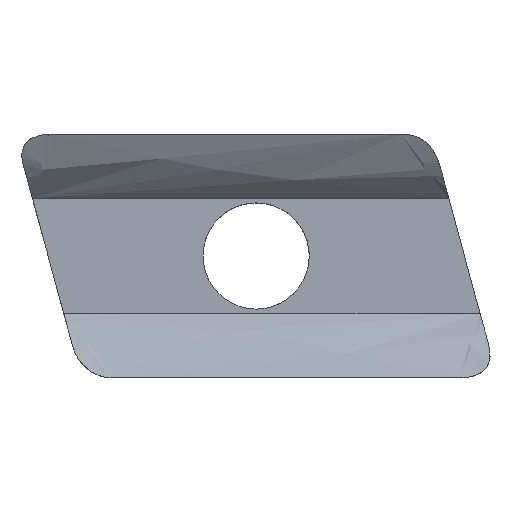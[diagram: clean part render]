
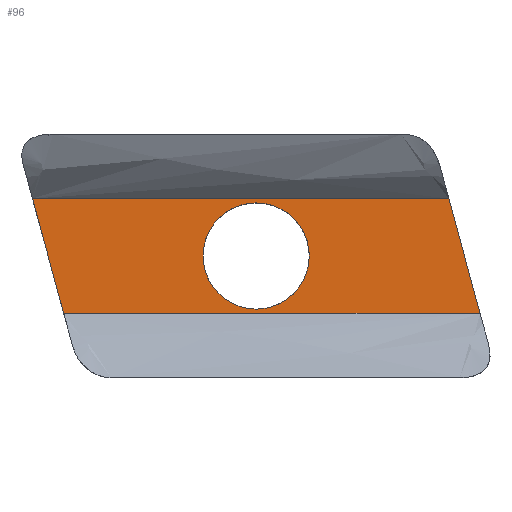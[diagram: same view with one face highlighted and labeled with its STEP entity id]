
A CAD part, top view. The second image highlights one B-rep face of the part: STEP entity #96.
In plain terms, the highlighted planar face has unit normal (0, 0, 1).
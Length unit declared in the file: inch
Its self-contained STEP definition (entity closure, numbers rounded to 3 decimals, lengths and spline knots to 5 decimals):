
#96=ADVANCED_FACE('',(#189,#190),#191,.T.);
#189=FACE_BOUND('',#1805,.T.);
#190=FACE_OUTER_BOUND('',#1806,.T.);
#191=PLANE('',#1807);
#1805=EDGE_LOOP('',(#2002,#2003,#2004,#2005));
#1806=EDGE_LOOP('',(#2006,#2007,#2008,#2009,#2010));
#1807=AXIS2_PLACEMENT_3D('',#2011,#2012,#2013);
#2002=ORIENTED_EDGE('',*,*,#2145,.T.);
#2003=ORIENTED_EDGE('',*,*,#2102,.T.);
#2004=ORIENTED_EDGE('',*,*,#2113,.T.);
#2005=ORIENTED_EDGE('',*,*,#2107,.T.);
#2006=ORIENTED_EDGE('',*,*,#2122,.F.);
#2007=ORIENTED_EDGE('',*,*,#2076,.T.);
#2008=ORIENTED_EDGE('',*,*,#2146,.F.);
#2009=ORIENTED_EDGE('',*,*,#2088,.T.);
#2010=ORIENTED_EDGE('',*,*,#2063,.T.);
#2011=CARTESIAN_POINT('',(-0.14909,0.203,0.0666));
#2012=DIRECTION('',(0.0,0.0,1.0));
#2013=DIRECTION('',(0.0,-1.0,0.0));
#2063=EDGE_CURVE('',#2175,#2173,#2176,.T.);
#2076=EDGE_CURVE('',#2191,#2198,#2200,.T.);
#2088=EDGE_CURVE('',#2212,#2175,#2221,.T.);
#2102=EDGE_CURVE('',#2241,#2242,#2243,.T.);
#2107=EDGE_CURVE('',#2250,#2251,#2252,.T.);
#2113=EDGE_CURVE('',#2242,#2250,#2260,.T.);
#2122=EDGE_CURVE('',#2191,#2173,#2270,.T.);
#2145=EDGE_CURVE('',#2251,#2241,#2297,.T.);
#2146=EDGE_CURVE('',#2212,#2198,#2298,.T.);
#2173=VERTEX_POINT('',#2608);
#2175=VERTEX_POINT('',#2615);
#2176=LINE('',#2616,#2617);
#2191=VERTEX_POINT('',#2671);
#2198=VERTEX_POINT('',#2689);
#2200=LINE('',#2696,#2697);
#2212=VERTEX_POINT('',#2731);
#2221=LINE('',#2757,#2758);
#2241=VERTEX_POINT('',#2801);
#2242=VERTEX_POINT('',#2802);
#2243=B_SPLINE_CURVE_WITH_KNOTS('',3,(#2803,#2804,#2805,#2806),.UNSPECIFIED.,.F.,.F.,(4,4),(-1.0,-0.0),.UNSPECIFIED.);
#2250=VERTEX_POINT('',#2826);
#2251=VERTEX_POINT('',#2827);
#2252=B_SPLINE_CURVE_WITH_KNOTS('',3,(#2828,#2829,#2830,#2831),.UNSPECIFIED.,.F.,.F.,(4,4),(-1.0,-0.0),.UNSPECIFIED.);
#2260=B_SPLINE_CURVE_WITH_KNOTS('',3,(#2852,#2853,#2854,#2855),.UNSPECIFIED.,.F.,.F.,(4,4),(-1.0,-0.0),.UNSPECIFIED.);
#2270=LINE('',#2890,#2891);
#2297=B_SPLINE_CURVE_WITH_KNOTS('',3,(#2989,#2990,#2991,#2992),.UNSPECIFIED.,.F.,.F.,(4,4),(-1.0,-0.0),.UNSPECIFIED.);
#2298=LINE('',#2993,#2994);
#2608=CARTESIAN_POINT('',(0.61456,0.10727,0.0666));
#2615=CARTESIAN_POINT('',(-0.07948,0.10727,0.0666));
#2616=CARTESIAN_POINT('',(-0.14909,0.10727,0.0666));
#2617=VECTOR('',#3002,1.);
#2671=CARTESIAN_POINT('',(0.58847,0.203,0.0666));
#2689=CARTESIAN_POINT('',(0.56238,0.29872,0.0666));
#2696=CARTESIAN_POINT('',(0.5613,0.30268,0.0666));
#2697=VECTOR('',#3006,1.0);
#2731=CARTESIAN_POINT('',(-0.13162,0.29872,0.0666));
#2757=CARTESIAN_POINT('',(-0.10705,0.20851,0.0666));
#2758=VECTOR('',#3011,1.0);
#2801=CARTESIAN_POINT('',(0.24126,0.1145,0.0666));
#2802=CARTESIAN_POINT('',(0.15276,0.20299,0.0666));
#2803=CARTESIAN_POINT('',(0.24126,0.1145,0.0666));
#2804=CARTESIAN_POINT('',(0.19238,0.1145,0.0666));
#2805=CARTESIAN_POINT('',(0.15276,0.15411,0.0666));
#2806=CARTESIAN_POINT('',(0.15276,0.20299,0.0666));
#2826=CARTESIAN_POINT('',(0.24126,0.2915,0.0666));
#2827=CARTESIAN_POINT('',(0.32976,0.20299,0.0666));
#2828=CARTESIAN_POINT('',(0.24126,0.2915,0.0666));
#2829=CARTESIAN_POINT('',(0.29013,0.2915,0.0666));
#2830=CARTESIAN_POINT('',(0.32976,0.25187,0.0666));
#2831=CARTESIAN_POINT('',(0.32976,0.20299,0.0666));
#2852=CARTESIAN_POINT('',(0.15276,0.20299,0.0666));
#2853=CARTESIAN_POINT('',(0.15276,0.25187,0.0666));
#2854=CARTESIAN_POINT('',(0.19238,0.2915,0.0666));
#2855=CARTESIAN_POINT('',(0.24126,0.2915,0.0666));
#2890=CARTESIAN_POINT('',(0.56298,0.29655,0.0666));
#2891=VECTOR('',#3023,1.0);
#2989=CARTESIAN_POINT('',(0.32976,0.20299,0.0666));
#2990=CARTESIAN_POINT('',(0.32976,0.15411,0.0666));
#2991=CARTESIAN_POINT('',(0.29013,0.1145,0.0666));
#2992=CARTESIAN_POINT('',(0.24126,0.1145,0.0666));
#2993=CARTESIAN_POINT('',(-0.14909,0.29872,0.0666));
#2994=VECTOR('',#3031,1.);
#3002=DIRECTION('',(1.0,0.,0.0));
#3006=DIRECTION('',(-0.263,0.965,0.0));
#3011=DIRECTION('',(0.263,-0.965,0.0));
#3023=DIRECTION('',(0.263,-0.965,0.0));
#3031=DIRECTION('',(1.0,0.,0.0));
